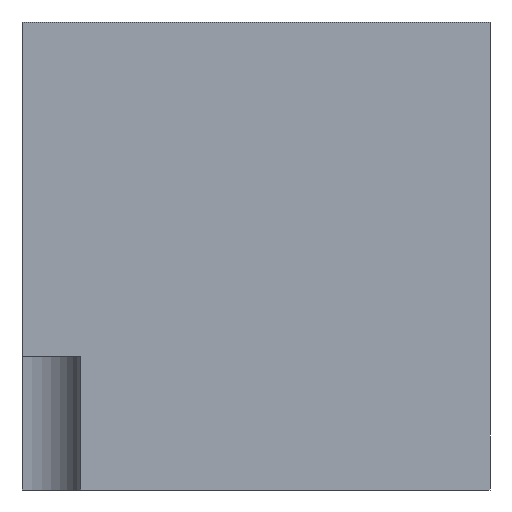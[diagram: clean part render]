
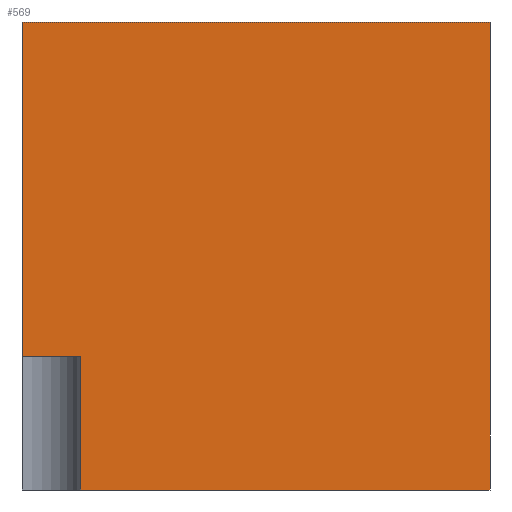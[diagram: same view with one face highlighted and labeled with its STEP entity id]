
A CAD part, left-side view. The second image highlights one B-rep face of the part: STEP entity #569.
In plain terms, the highlighted planar face has unit normal (-1, 0, 0).
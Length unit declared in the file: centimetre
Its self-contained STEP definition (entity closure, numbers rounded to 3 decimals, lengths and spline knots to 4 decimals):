
#7 = VECTOR ( 'NONE', #292, 100. ) ;
#40 = CARTESIAN_POINT ( 'NONE',  ( 0., 1000., 1000. ) ) ;
#49 = FACE_OUTER_BOUND ( 'NONE', #191, .T. ) ;
#52 = PLANE ( 'NONE',  #593 ) ;
#54 = EDGE_CURVE ( 'NONE', #397, #550, #159, .T. ) ;
#85 = CARTESIAN_POINT ( 'NONE',  ( 0., 0., 1000. ) ) ;
#109 = DIRECTION ( 'NONE',  ( 0., -1., 0. ) ) ;
#115 = ORIENTED_EDGE ( 'NONE', *, *, #54, .T. ) ;
#159 = LINE ( 'NONE', #517, #620 ) ;
#161 = DIRECTION ( 'NONE',  ( 1., 0., 0. ) ) ;
#185 = DIRECTION ( 'NONE',  ( 0., 0., -1. ) ) ;
#191 = EDGE_LOOP ( 'NONE', ( #470, #321, #115, #283, #195, #302 ) ) ;
#195 = ORIENTED_EDGE ( 'NONE', *, *, #206, .F. ) ;
#202 = VERTEX_POINT ( 'NONE', #382 ) ;
#206 = EDGE_CURVE ( 'NONE', #417, #445, #331, .T. ) ;
#220 = VERTEX_POINT ( 'NONE', #323 ) ;
#236 = LINE ( 'NONE', #85, #7 ) ;
#251 = CARTESIAN_POINT ( 'NONE',  ( 0., 874.2441, 285.4821 ) ) ;
#274 = VECTOR ( 'NONE', #297, 100. ) ;
#283 = ORIENTED_EDGE ( 'NONE', *, *, #408, .F. ) ;
#292 = DIRECTION ( 'NONE',  ( 0., 0., -1. ) ) ;
#297 = DIRECTION ( 'NONE',  ( 0., 0., -1. ) ) ;
#302 = ORIENTED_EDGE ( 'NONE', *, *, #354, .T. ) ;
#312 = CARTESIAN_POINT ( 'NONE',  ( 0., 1000., 1000. ) ) ;
#321 = ORIENTED_EDGE ( 'NONE', *, *, #441, .T. ) ;
#323 = CARTESIAN_POINT ( 'NONE',  ( 0., 1000., 285.4821 ) ) ;
#331 = LINE ( 'NONE', #485, #503 ) ;
#335 = VECTOR ( 'NONE', #185, 100. ) ;
#349 = CARTESIAN_POINT ( 'NONE',  ( 0., 0., 0. ) ) ;
#354 = EDGE_CURVE ( 'NONE', #417, #220, #626, .T. ) ;
#364 = DIRECTION ( 'NONE',  ( 0., 0., -1. ) ) ;
#382 = CARTESIAN_POINT ( 'NONE',  ( 0., 874.2441, 285.4821 ) ) ;
#397 = VERTEX_POINT ( 'NONE', #540 ) ;
#408 = EDGE_CURVE ( 'NONE', #445, #550, #236, .T. ) ;
#417 = VERTEX_POINT ( 'NONE', #40 ) ;
#420 = LINE ( 'NONE', #609, #452 ) ;
#441 = EDGE_CURVE ( 'NONE', #202, #397, #454, .T. ) ;
#445 = VERTEX_POINT ( 'NONE', #551 ) ;
#452 = VECTOR ( 'NONE', #515, 100. ) ;
#454 = LINE ( 'NONE', #251, #274 ) ;
#470 = ORIENTED_EDGE ( 'NONE', *, *, #619, .F. ) ;
#485 = CARTESIAN_POINT ( 'NONE',  ( 0., 1000., 1000. ) ) ;
#503 = VECTOR ( 'NONE', #534, 100. ) ;
#515 = DIRECTION ( 'NONE',  ( 0., 1., 0. ) ) ;
#517 = CARTESIAN_POINT ( 'NONE',  ( 0., 1000., 0. ) ) ;
#534 = DIRECTION ( 'NONE',  ( 0., -1., 0. ) ) ;
#540 = CARTESIAN_POINT ( 'NONE',  ( 0., 874.2441, 0. ) ) ;
#550 = VERTEX_POINT ( 'NONE', #349 ) ;
#551 = CARTESIAN_POINT ( 'NONE',  ( 0., 0., 1000. ) ) ;
#569 = ADVANCED_FACE ( 'NONE', ( #49 ), #52, .F. ) ;
#576 = CARTESIAN_POINT ( 'NONE',  ( 0., 1000., 1000. ) ) ;
#593 = AXIS2_PLACEMENT_3D ( 'NONE', #312, #161, #364 ) ;
#609 = CARTESIAN_POINT ( 'NONE',  ( 0., 1000., 285.4821 ) ) ;
#619 = EDGE_CURVE ( 'NONE', #202, #220, #420, .T. ) ;
#620 = VECTOR ( 'NONE', #109, 100. ) ;
#626 = LINE ( 'NONE', #576, #335 ) ;
